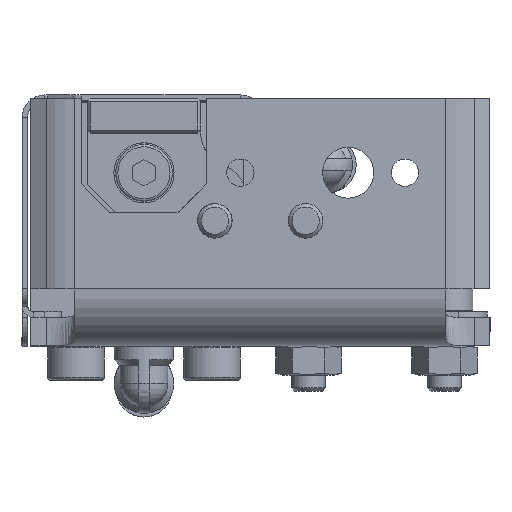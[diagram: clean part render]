
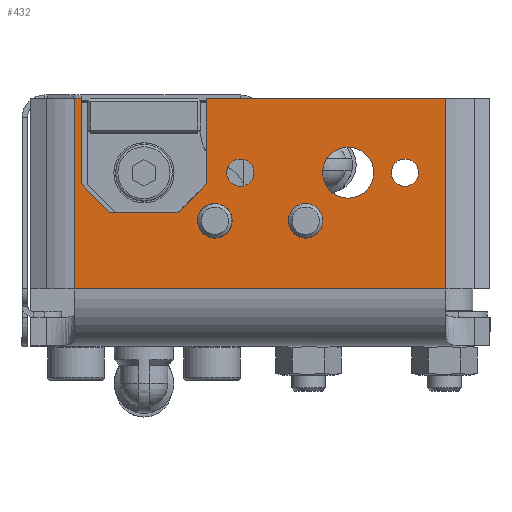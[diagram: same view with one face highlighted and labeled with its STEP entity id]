
A CAD part, top view. The second image highlights one B-rep face of the part: STEP entity #432.
In plain terms, the highlighted planar face has unit normal (0, 0, 1).
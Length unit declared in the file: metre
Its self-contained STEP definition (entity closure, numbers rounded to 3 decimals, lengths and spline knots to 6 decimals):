
#10 = DIRECTION ( 'NONE',  ( 0., 0., -1. ) ) ;
#112 = CARTESIAN_POINT ( 'NONE',  ( -0.011, 0.0235, 0.0002 ) ) ;
#183 = VERTEX_POINT ( 'NONE', #6582 ) ;
#334 = LINE ( 'NONE', #2103, #4611 ) ;
#358 = CARTESIAN_POINT ( 'NONE',  ( -0.011, 0.0385, 0.0002 ) ) ;
#432 = ADVANCED_FACE ( 'NONE', ( #21896, #8051, #13076, #17088, #12301, #7473 ), #20394, .T. ) ;
#481 = ORIENTED_EDGE ( 'NONE', *, *, #14862, .T. ) ;
#532 = VERTEX_POINT ( 'NONE', #17195 ) ;
#533 = CARTESIAN_POINT ( 'NONE',  ( 0.061, 0., 0.0002 ) ) ;
#745 = CARTESIAN_POINT ( 'NONE',  ( 0.011, 0.0235, 0.0002 ) ) ;
#980 = ORIENTED_EDGE ( 'NONE', *, *, #18101, .T. ) ;
#1306 = DIRECTION ( 'NONE',  ( 0., -1., 0. ) ) ;
#1426 = DIRECTION ( 'NONE',  ( 0., -1., 0. ) ) ;
#1564 = AXIS2_PLACEMENT_3D ( 'NONE', #22944, #12111, #1306 ) ;
#1733 = EDGE_CURVE ( 'NONE', #12540, #15340, #334, .T. ) ;
#2103 = CARTESIAN_POINT ( 'NONE',  ( 0.006, 0.0185, 0.0002 ) ) ;
#2406 = LINE ( 'NONE', #21235, #11462 ) ;
#2584 = CARTESIAN_POINT ( 'NONE',  ( 0.0125, 0.01395, 0.0002 ) ) ;
#2624 = VECTOR ( 'NONE', #11587, 1. ) ;
#2754 = ORIENTED_EDGE ( 'NONE', *, *, #8433, .T. ) ;
#3417 = ORIENTED_EDGE ( 'NONE', *, *, #1733, .T. ) ;
#3636 = ORIENTED_EDGE ( 'NONE', *, *, #10339, .F. ) ;
#4049 = DIRECTION ( 'NONE',  ( 0., -1., 0. ) ) ;
#4061 = CARTESIAN_POINT ( 'NONE',  ( 0.05321, 0.0385, 0.0002 ) ) ;
#4180 = CARTESIAN_POINT ( 'NONE',  ( 0.011, 0.0235, 0.0002 ) ) ;
#4311 = ORIENTED_EDGE ( 'NONE', *, *, #12903, .T. ) ;
#4324 = DIRECTION ( 'NONE',  ( 1., 0., 0. ) ) ;
#4595 = VECTOR ( 'NONE', #4324, 1. ) ;
#4611 = VECTOR ( 'NONE', #15752, 1. ) ;
#5175 = ORIENTED_EDGE ( 'NONE', *, *, #10422, .T. ) ;
#5576 = CARTESIAN_POINT ( 'NONE',  ( -0.006, 0.0185, 0.0002 ) ) ;
#5589 = EDGE_LOOP ( 'NONE', ( #20827 ) ) ;
#5838 = VERTEX_POINT ( 'NONE', #22326 ) ;
#6040 = EDGE_LOOP ( 'NONE', ( #4311 ) ) ;
#6123 = VERTEX_POINT ( 'NONE', #22569 ) ;
#6375 = AXIS2_PLACEMENT_3D ( 'NONE', #23096, #12245, #1426 ) ;
#6382 = CARTESIAN_POINT ( 'NONE',  ( 0.011, 0.0385, 0.0002 ) ) ;
#6582 = CARTESIAN_POINT ( 'NONE',  ( 0.05321, 0.005, 0.0002 ) ) ;
#6595 = EDGE_LOOP ( 'NONE', ( #21556 ) ) ;
#7048 = DIRECTION ( 'NONE',  ( 1., 0., 0. ) ) ;
#7473 = FACE_BOUND ( 'NONE', #6040, .T. ) ;
#7708 = VECTOR ( 'NONE', #16369, 1. ) ;
#7718 = VECTOR ( 'NONE', #13885, 1. ) ;
#7923 = CARTESIAN_POINT ( 'NONE',  ( 0.05321, 0.038501, 0.0002 ) ) ;
#7991 = ORIENTED_EDGE ( 'NONE', *, *, #21076, .T. ) ;
#8004 = ORIENTED_EDGE ( 'NONE', *, *, #18885, .F. ) ;
#8005 = CIRCLE ( 'NONE', #6375, 0.0024 ) ;
#8051 = FACE_BOUND ( 'NONE', #13916, .T. ) ;
#8191 = VECTOR ( 'NONE', #7048, 1. ) ;
#8288 = LINE ( 'NONE', #5576, #7708 ) ;
#8433 = EDGE_CURVE ( 'NONE', #15340, #21170, #8288, .T. ) ;
#8782 = LINE ( 'NONE', #16048, #8191 ) ;
#9187 = AXIS2_PLACEMENT_3D ( 'NONE', #10841, #10, #12656 ) ;
#9402 = CARTESIAN_POINT ( 'NONE',  ( -0.01221, 0.0385, 0.0002 ) ) ;
#9588 = DIRECTION ( 'NONE',  ( 0., -1., 0. ) ) ;
#9667 = CARTESIAN_POINT ( 'NONE',  ( 0.061, 0.0385, 0.0002 ) ) ;
#9781 = CARTESIAN_POINT ( 'NONE',  ( 0.017, 0.0231, 0.0002 ) ) ;
#10015 = DIRECTION ( 'NONE',  ( 0., 0., -1. ) ) ;
#10138 = LINE ( 'NONE', #13014, #19190 ) ;
#10246 = CARTESIAN_POINT ( 'NONE',  ( -0.01221, 0.005, 0.0002 ) ) ;
#10339 = EDGE_CURVE ( 'NONE', #15276, #183, #16944, .T. ) ;
#10422 = EDGE_CURVE ( 'NONE', #5838, #5838, #11010, .T. ) ;
#10568 = EDGE_CURVE ( 'NONE', #13612, #183, #8782, .T. ) ;
#10813 = CARTESIAN_POINT ( 'NONE',  ( 0.036, 0.0255, 0.0002 ) ) ;
#10841 = CARTESIAN_POINT ( 'NONE',  ( 0.017, 0.0255, 0.0002 ) ) ;
#10891 = ORIENTED_EDGE ( 'NONE', *, *, #18734, .T. ) ;
#11010 = CIRCLE ( 'NONE', #1564, 0.00305 ) ;
#11074 = ORIENTED_EDGE ( 'NONE', *, *, #16775, .T. ) ;
#11293 = DIRECTION ( 'NONE',  ( 0., -1., 0. ) ) ;
#11462 = VECTOR ( 'NONE', #23057, 1. ) ;
#11587 = DIRECTION ( 'NONE',  ( 0., -1., 0. ) ) ;
#11679 = LINE ( 'NONE', #745, #2624 ) ;
#11961 = LINE ( 'NONE', #21177, #7718 ) ;
#12111 = DIRECTION ( 'NONE',  ( 0., 0., -1. ) ) ;
#12227 = ORIENTED_EDGE ( 'NONE', *, *, #14565, .F. ) ;
#12245 = DIRECTION ( 'NONE',  ( 0., 0., -1. ) ) ;
#12301 = FACE_BOUND ( 'NONE', #23088, .T. ) ;
#12540 = VERTEX_POINT ( 'NONE', #4180 ) ;
#12642 = DIRECTION ( 'NONE',  ( 0., -1., 0. ) ) ;
#12656 = DIRECTION ( 'NONE',  ( 0., -1., 0. ) ) ;
#12903 = EDGE_CURVE ( 'NONE', #18554, #18554, #18215, .T. ) ;
#13014 = CARTESIAN_POINT ( 'NONE',  ( -0.01221, 0.038501, 0.0002 ) ) ;
#13076 = FACE_BOUND ( 'NONE', #6595, .T. ) ;
#13296 = VERTEX_POINT ( 'NONE', #358 ) ;
#13465 = EDGE_CURVE ( 'NONE', #17995, #17995, #17395, .T. ) ;
#13552 = CARTESIAN_POINT ( 'NONE',  ( 0.046, 0.0231, 0.0002 ) ) ;
#13612 = VERTEX_POINT ( 'NONE', #10246 ) ;
#13885 = DIRECTION ( 'NONE',  ( 1., 0., 0. ) ) ;
#13916 = EDGE_LOOP ( 'NONE', ( #5175 ) ) ;
#14180 = LINE ( 'NONE', #9667, #4595 ) ;
#14565 = EDGE_CURVE ( 'NONE', #14915, #15276, #11961, .T. ) ;
#14862 = EDGE_CURVE ( 'NONE', #14915, #12540, #11679, .T. ) ;
#14915 = VERTEX_POINT ( 'NONE', #6382 ) ;
#14935 = AXIS2_PLACEMENT_3D ( 'NONE', #10813, #23472, #12642 ) ;
#14990 = CARTESIAN_POINT ( 'NONE',  ( 0.006, 0.0185, 0.0002 ) ) ;
#15145 = VERTEX_POINT ( 'NONE', #13552 ) ;
#15276 = VERTEX_POINT ( 'NONE', #4061 ) ;
#15340 = VERTEX_POINT ( 'NONE', #14990 ) ;
#15752 = DIRECTION ( 'NONE',  ( -0.707, -0.707, 0. ) ) ;
#15824 = ORIENTED_EDGE ( 'NONE', *, *, #10568, .T. ) ;
#15891 = LINE ( 'NONE', #112, #20707 ) ;
#16048 = CARTESIAN_POINT ( 'NONE',  ( 0.061, 0.005, 0.0002 ) ) ;
#16134 = EDGE_LOOP ( 'NONE', ( #11074, #8004, #7991, #15824, #3636, #12227, #481, #3417, #2754, #10891 ) ) ;
#16369 = DIRECTION ( 'NONE',  ( -1., 0., 0. ) ) ;
#16775 = EDGE_CURVE ( 'NONE', #532, #13296, #2406, .T. ) ;
#16779 = CIRCLE ( 'NONE', #14935, 0.0045 ) ;
#16944 = LINE ( 'NONE', #7923, #22328 ) ;
#17088 = FACE_BOUND ( 'NONE', #5589, .T. ) ;
#17195 = CARTESIAN_POINT ( 'NONE',  ( -0.011, 0.0235, 0.0002 ) ) ;
#17395 = CIRCLE ( 'NONE', #19651, 0.00305 ) ;
#17493 = EDGE_CURVE ( 'NONE', #6123, #6123, #16779, .T. ) ;
#17837 = CARTESIAN_POINT ( 'NONE',  ( -0.006, 0.0185, 0.0002 ) ) ;
#17995 = VERTEX_POINT ( 'NONE', #2584 ) ;
#18101 = EDGE_CURVE ( 'NONE', #15145, #15145, #8005, .T. ) ;
#18215 = CIRCLE ( 'NONE', #9187, 0.0024 ) ;
#18554 = VERTEX_POINT ( 'NONE', #9781 ) ;
#18734 = EDGE_CURVE ( 'NONE', #21170, #532, #15891, .T. ) ;
#18743 = AXIS2_PLACEMENT_3D ( 'NONE', #533, #22527, #4049 ) ;
#18885 = EDGE_CURVE ( 'NONE', #22700, #13296, #14180, .T. ) ;
#19190 = VECTOR ( 'NONE', #11293, 1. ) ;
#19651 = AXIS2_PLACEMENT_3D ( 'NONE', #20853, #10015, #22650 ) ;
#20394 = PLANE ( 'NONE',  #18743 ) ;
#20707 = VECTOR ( 'NONE', #21839, 1. ) ;
#20827 = ORIENTED_EDGE ( 'NONE', *, *, #17493, .T. ) ;
#20853 = CARTESIAN_POINT ( 'NONE',  ( 0.0125, 0.017, 0.0002 ) ) ;
#21076 = EDGE_CURVE ( 'NONE', #22700, #13612, #10138, .T. ) ;
#21170 = VERTEX_POINT ( 'NONE', #17837 ) ;
#21177 = CARTESIAN_POINT ( 'NONE',  ( 0.061, 0.0385, 0.0002 ) ) ;
#21235 = CARTESIAN_POINT ( 'NONE',  ( -0.011, 0.0385, 0.0002 ) ) ;
#21556 = ORIENTED_EDGE ( 'NONE', *, *, #13465, .T. ) ;
#21839 = DIRECTION ( 'NONE',  ( -0.707, 0.707, 0. ) ) ;
#21896 = FACE_OUTER_BOUND ( 'NONE', #16134, .T. ) ;
#22326 = CARTESIAN_POINT ( 'NONE',  ( 0.0285, 0.01395, 0.0002 ) ) ;
#22328 = VECTOR ( 'NONE', #9588, 1. ) ;
#22527 = DIRECTION ( 'NONE',  ( 0., 0., 1. ) ) ;
#22569 = CARTESIAN_POINT ( 'NONE',  ( 0.036, 0.021, 0.0002 ) ) ;
#22650 = DIRECTION ( 'NONE',  ( 0., -1., 0. ) ) ;
#22700 = VERTEX_POINT ( 'NONE', #9402 ) ;
#22944 = CARTESIAN_POINT ( 'NONE',  ( 0.0285, 0.017, 0.0002 ) ) ;
#23057 = DIRECTION ( 'NONE',  ( 0., 1., 0. ) ) ;
#23088 = EDGE_LOOP ( 'NONE', ( #980 ) ) ;
#23096 = CARTESIAN_POINT ( 'NONE',  ( 0.046, 0.0255, 0.0002 ) ) ;
#23472 = DIRECTION ( 'NONE',  ( 0., 0., -1. ) ) ;
